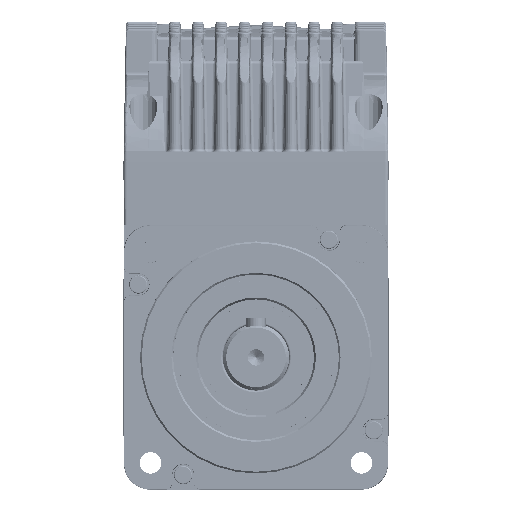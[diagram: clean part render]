
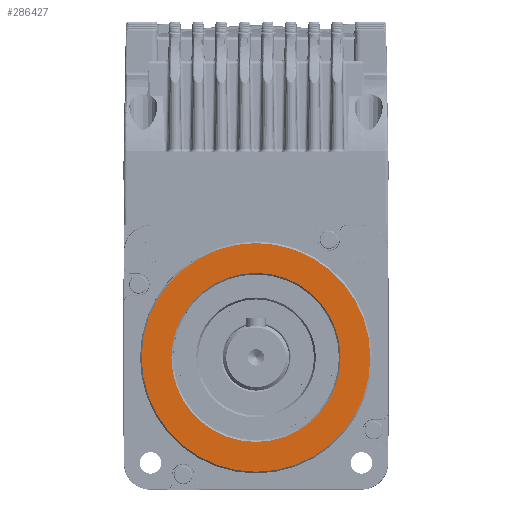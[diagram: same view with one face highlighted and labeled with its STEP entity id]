
A CAD part, front view. The second image highlights one B-rep face of the part: STEP entity #286427.
In plain terms, the highlighted planar face has unit normal (0, -1, 0).
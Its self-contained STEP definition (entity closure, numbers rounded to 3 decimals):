
#286202=AXIS2_PLACEMENT_3D('Circle Axis2P3D',#286200,#286201,$) ;
#286211=AXIS2_PLACEMENT_3D('Circle Axis2P3D',#286209,#286210,$) ;
#286249=AXIS2_PLACEMENT_3D('Circle Axis2P3D',#286247,#286248,$) ;
#286256=AXIS2_PLACEMENT_3D('Circle Axis2P3D',#286254,#286255,$) ;
#286385=AXIS2_PLACEMENT_3D('Plane Axis2P3D',#286382,#286383,#286384) ;
#286389=AXIS2_PLACEMENT_3D('Circle Axis2P3D',#286387,#286388,$) ;
#286398=AXIS2_PLACEMENT_3D('Circle Axis2P3D',#286396,#286397,$) ;
#286405=AXIS2_PLACEMENT_3D('Circle Axis2P3D',#286403,#286404,$) ;
#286412=AXIS2_PLACEMENT_3D('Circle Axis2P3D',#286410,#286411,$) ;
#286200=CARTESIAN_POINT('Axis2P3D Location',(0.,-1.36,0.)) ;
#286204=CARTESIAN_POINT('Vertex',(25.5,-1.36,0.)) ;
#286206=CARTESIAN_POINT('Vertex',(0.,-1.36,-25.5)) ;
#286209=CARTESIAN_POINT('Axis2P3D Location',(0.,-1.36,0.)) ;
#286213=CARTESIAN_POINT('Vertex',(0.,-1.36,25.5)) ;
#286247=CARTESIAN_POINT('Axis2P3D Location',(0.,-1.36,0.)) ;
#286251=CARTESIAN_POINT('Vertex',(-25.5,-1.36,0.)) ;
#286254=CARTESIAN_POINT('Axis2P3D Location',(0.,-1.36,0.)) ;
#286382=CARTESIAN_POINT('Axis2P3D Location',(0.,-1.36,25.)) ;
#286387=CARTESIAN_POINT('Axis2P3D Location',(0.,-1.36,0.)) ;
#286391=CARTESIAN_POINT('Vertex',(34.5,-1.36,0.)) ;
#286393=CARTESIAN_POINT('Vertex',(0.,-1.36,34.5)) ;
#286396=CARTESIAN_POINT('Axis2P3D Location',(0.,-1.36,0.)) ;
#286400=CARTESIAN_POINT('Vertex',(-34.5,-1.36,0.)) ;
#286403=CARTESIAN_POINT('Axis2P3D Location',(0.,-1.36,0.)) ;
#286407=CARTESIAN_POINT('Vertex',(0.,-1.36,-34.5)) ;
#286410=CARTESIAN_POINT('Axis2P3D Location',(0.,-1.36,0.)) ;
#286201=DIRECTION('Axis2P3D Direction',(0.,-1.,0.)) ;
#286210=DIRECTION('Axis2P3D Direction',(0.,-1.,0.)) ;
#286248=DIRECTION('Axis2P3D Direction',(0.,-1.,0.)) ;
#286255=DIRECTION('Axis2P3D Direction',(0.,-1.,0.)) ;
#286383=DIRECTION('Axis2P3D Direction',(0.,-1.,0.)) ;
#286384=DIRECTION('Axis2P3D XDirection',(0.,0.,-1.)) ;
#286388=DIRECTION('Axis2P3D Direction',(0.,-1.,0.)) ;
#286397=DIRECTION('Axis2P3D Direction',(0.,-1.,0.)) ;
#286404=DIRECTION('Axis2P3D Direction',(0.,-1.,0.)) ;
#286411=DIRECTION('Axis2P3D Direction',(0.,-1.,0.)) ;
#286416=ORIENTED_EDGE('',*,*,#286395,.T.) ;
#286417=ORIENTED_EDGE('',*,*,#286402,.T.) ;
#286418=ORIENTED_EDGE('',*,*,#286409,.T.) ;
#286419=ORIENTED_EDGE('',*,*,#286414,.T.) ;
#286422=ORIENTED_EDGE('',*,*,#286208,.T.) ;
#286423=ORIENTED_EDGE('',*,*,#286258,.T.) ;
#286424=ORIENTED_EDGE('',*,*,#286253,.T.) ;
#286425=ORIENTED_EDGE('',*,*,#286215,.T.) ;
#286426=FACE_BOUND('',#286421,.T.) ;
#286427=ADVANCED_FACE('N33278',(#286420,#286426),#286386,.T.) ;
#286203=CIRCLE('generated circle',#286202,25.5) ;
#286212=CIRCLE('generated circle',#286211,25.5) ;
#286250=CIRCLE('generated circle',#286249,25.5) ;
#286257=CIRCLE('generated circle',#286256,25.5) ;
#286390=CIRCLE('generated circle',#286389,34.5) ;
#286399=CIRCLE('generated circle',#286398,34.5) ;
#286406=CIRCLE('generated circle',#286405,34.5) ;
#286413=CIRCLE('generated circle',#286412,34.5) ;
#286208=EDGE_CURVE('',#286205,#286207,#286203,.F.) ;
#286215=EDGE_CURVE('',#286214,#286205,#286212,.F.) ;
#286253=EDGE_CURVE('',#286252,#286214,#286250,.F.) ;
#286258=EDGE_CURVE('',#286207,#286252,#286257,.F.) ;
#286395=EDGE_CURVE('',#286392,#286394,#286390,.T.) ;
#286402=EDGE_CURVE('',#286394,#286401,#286399,.T.) ;
#286409=EDGE_CURVE('',#286401,#286408,#286406,.T.) ;
#286414=EDGE_CURVE('',#286408,#286392,#286413,.T.) ;
#286415=EDGE_LOOP('',(#286416,#286417,#286418,#286419)) ;
#286421=EDGE_LOOP('',(#286422,#286423,#286424,#286425)) ;
#286420=FACE_OUTER_BOUND('',#286415,.T.) ;
#286386=PLANE('Plane',#286385) ;
#286205=VERTEX_POINT('',#286204) ;
#286207=VERTEX_POINT('',#286206) ;
#286214=VERTEX_POINT('',#286213) ;
#286252=VERTEX_POINT('',#286251) ;
#286392=VERTEX_POINT('',#286391) ;
#286394=VERTEX_POINT('',#286393) ;
#286401=VERTEX_POINT('',#286400) ;
#286408=VERTEX_POINT('',#286407) ;
